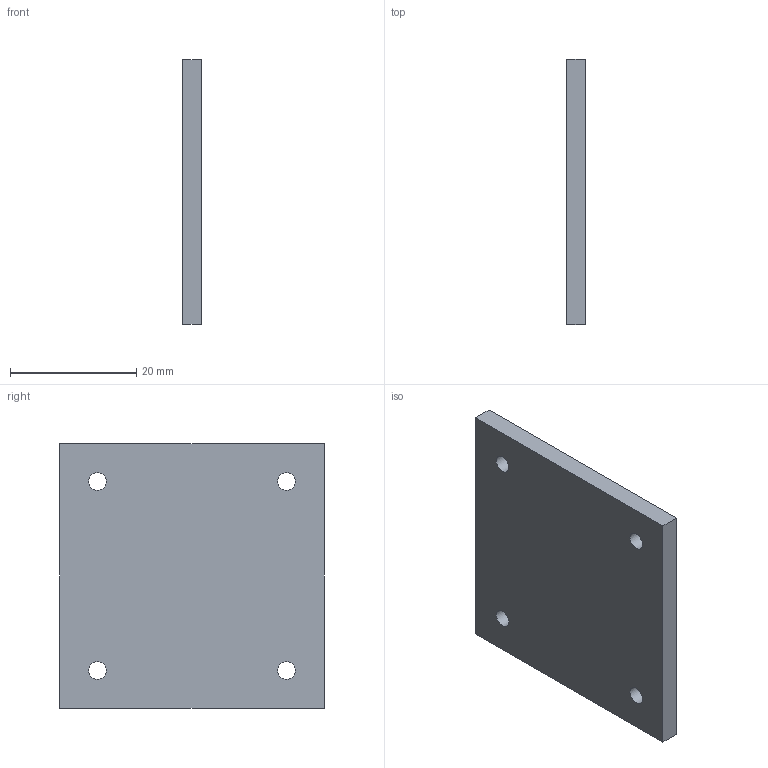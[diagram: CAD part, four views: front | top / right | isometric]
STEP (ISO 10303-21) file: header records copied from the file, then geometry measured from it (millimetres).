
FILE_DESCRIPTION(('Open CASCADE Model'),'2;1');
FILE_NAME('Open CASCADE Shape Model','2026-10-08T14:17:54',('Author'),( 'Open CASCADE'),'Open CASCADE STEP processor 7.9','Open CASCADE 7.9' ,'Unknown');
FILE_SCHEMA(('AUTOMOTIVE_DESIGN { 1 0 10303 214 1 1 1 1 }'));
Length unit declared in the file: millimetre
Products named in the file (1): Open CASCADE STEP translator 7.9 16
Bounding box: 3 x 42 x 42 mm (x, y, z)
Volume: 5218.1 mm3; surface area: 4088.3 mm2
Topology: 1 solids, 1 shells, 10 faces, 24 edges, 16 vertices
Faces by surface type: plane 6, cylinder 4
Full cylindrical faces by diameter (mm): 2.8 x4
Entity records: 658 total; most frequent: CARTESIAN_POINT 147, DIRECTION 94, LINE 56, VECTOR 56, ORIENTED_EDGE 48, PCURVE 48, DEFINITIONAL_REPRESENTATION 48, EDGE_CURVE 24
